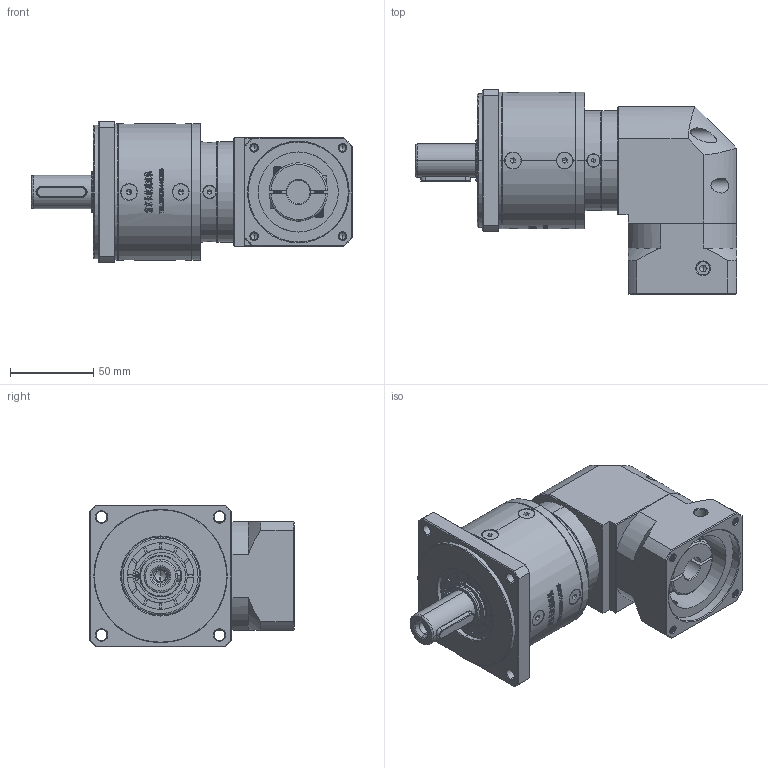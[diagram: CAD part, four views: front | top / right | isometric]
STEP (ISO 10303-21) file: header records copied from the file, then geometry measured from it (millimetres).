
FILE_DESCRIPTION (( 'STEP AP214' ), '1' );
FILE_NAME ('ZFR80-D20-L2-14-60-75-M5.step', '2022-05-08T14:49:23', ( '' ), ( 'Microsoft' ), 'SwSTEP 2.0', 'SolidWorks 2016', '' );
FILE_SCHEMA (( 'AUTOMOTIVE_DESIGN' ));
Length unit declared in the file: millimetre
Products named in the file (1): ZFR80-D20-L2-14-60-75-M5
Bounding box: 192.5 x 122.7 x 85 mm (x, y, z)
Volume: 799656.5 mm3; surface area: 104020.3 mm2
Topology: 17 solids, 18 shells, 3078 faces, 8209 edges, 5288 vertices
Faces by surface type: plane 1601, bspline 608, cylinder 468, cone 381, torus 20
Entity records: 165702 total; most frequent: CARTESIAN_POINT 60453, ORIENTED_EDGE 16326, DIRECTION 12451, EDGE_CURVE 8163, VERTEX_POINT 5288, VECTOR 4989, LINE 4989, AXIS2_PLACEMENT_3D 3731
